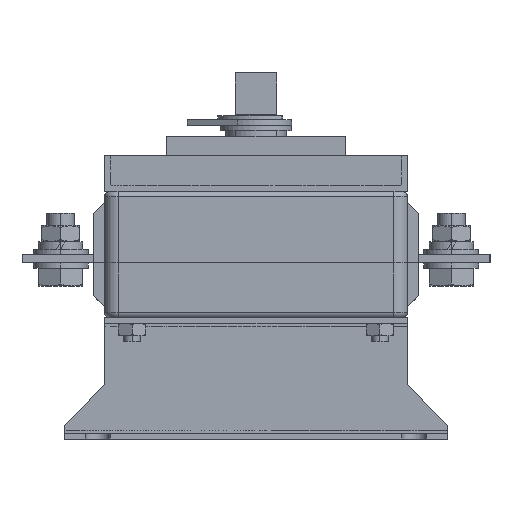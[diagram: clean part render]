
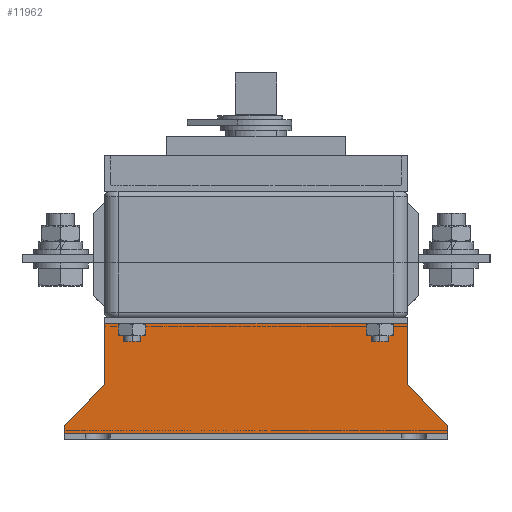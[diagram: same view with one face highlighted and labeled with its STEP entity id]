
A CAD part, left-side view. The second image highlights one B-rep face of the part: STEP entity #11962.
In plain terms, the highlighted planar face has unit normal (-1, 0, 0) as drawn and (0, 0, 1) by its records, which use the part's own axes.
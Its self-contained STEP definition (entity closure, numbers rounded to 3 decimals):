
#11313=DIRECTION('',(0.,-1.,0.));
#11314=VECTOR('',#11313,3.);
#11315=CARTESIAN_POINT('',(-69.5,5.,-7.));
#11316=LINE('',#11315,#11314);
#11330=DIRECTION('',(-0.695,-0.719,0.));
#11331=VECTOR('',#11330,20.863);
#11332=CARTESIAN_POINT('',(-55.,20.,-7.));
#11333=LINE('',#11332,#11331);
#11347=DIRECTION('',(0.,1.,0.));
#11348=VECTOR('',#11347,22.);
#11349=CARTESIAN_POINT('',(-55.,20.,-7.));
#11350=LINE('',#11349,#11348);
#11360=DIRECTION('',(0.,1.,0.));
#11361=VECTOR('',#11360,22.);
#11362=CARTESIAN_POINT('',(55.,20.,-7.));
#11363=LINE('',#11362,#11361);
#11372=DIRECTION('',(-0.695,0.719,0.));
#11373=VECTOR('',#11372,20.863);
#11374=CARTESIAN_POINT('',(69.5,5.,-7.));
#11375=LINE('',#11374,#11373);
#11389=DIRECTION('',(0.,-1.,0.));
#11390=VECTOR('',#11389,3.);
#11391=CARTESIAN_POINT('',(69.5,5.,-7.));
#11392=LINE('',#11391,#11390);
#11477=DIRECTION('',(1.,0.,0.));
#11478=VECTOR('',#11477,110.);
#11479=CARTESIAN_POINT('',(-55.,42.,-7.));
#11480=LINE('',#11479,#11478);
#11485=DIRECTION('',(1.,0.,0.));
#11486=VECTOR('',#11485,139.);
#11487=CARTESIAN_POINT('',(-69.5,2.,-7.));
#11488=LINE('',#11487,#11486);
#11651=CARTESIAN_POINT('',(69.5,2.,-7.));
#11652=VERTEX_POINT('',#11651);
#11653=CARTESIAN_POINT('',(-69.5,2.,-7.));
#11654=VERTEX_POINT('',#11653);
#11655=CARTESIAN_POINT('',(69.5,5.,-7.));
#11656=VERTEX_POINT('',#11655);
#11657=CARTESIAN_POINT('',(55.,20.,-7.));
#11658=VERTEX_POINT('',#11657);
#11659=CARTESIAN_POINT('',(-55.,20.,-7.));
#11660=VERTEX_POINT('',#11659);
#11661=CARTESIAN_POINT('',(-69.5,5.,-7.));
#11662=VERTEX_POINT('',#11661);
#11663=CARTESIAN_POINT('',(55.,42.,-7.));
#11664=VERTEX_POINT('',#11663);
#11665=CARTESIAN_POINT('',(-55.,42.,-7.));
#11666=VERTEX_POINT('',#11665);
#11946=CARTESIAN_POINT('',(-69.5,42.,-7.));
#11947=DIRECTION('',(0.,0.,-1.));
#11948=DIRECTION('',(0.,-1.,0.));
#11949=AXIS2_PLACEMENT_3D('',#11946,#11947,#11948);
#11950=PLANE('',#11949);
#11951=ORIENTED_EDGE('',*,*,#11821,.F.);
#11952=ORIENTED_EDGE('',*,*,#11839,.F.);
#11953=ORIENTED_EDGE('',*,*,#11857,.T.);
#11955=ORIENTED_EDGE('',*,*,#11954,.F.);
#11956=ORIENTED_EDGE('',*,*,#11753,.F.);
#11957=ORIENTED_EDGE('',*,*,#11771,.F.);
#11958=ORIENTED_EDGE('',*,*,#11791,.T.);
#11959=ORIENTED_EDGE('',*,*,#11928,.T.);
#11960=EDGE_LOOP('',(#11951,#11952,#11953,#11955,#11956,#11957,#11958,#11959));
#11961=FACE_OUTER_BOUND('',#11960,.F.);
#11962=ADVANCED_FACE('',(#11961),#11950,.F.);
#11753=EDGE_CURVE('',#11662,#11654,#11316,.T.);
#11771=EDGE_CURVE('',#11660,#11662,#11333,.T.);
#11791=EDGE_CURVE('',#11660,#11666,#11350,.T.);
#11821=EDGE_CURVE('',#11658,#11664,#11363,.T.);
#11839=EDGE_CURVE('',#11656,#11658,#11375,.T.);
#11857=EDGE_CURVE('',#11656,#11652,#11392,.T.);
#11928=EDGE_CURVE('',#11666,#11664,#11480,.T.);
#11954=EDGE_CURVE('',#11654,#11652,#11488,.T.);
